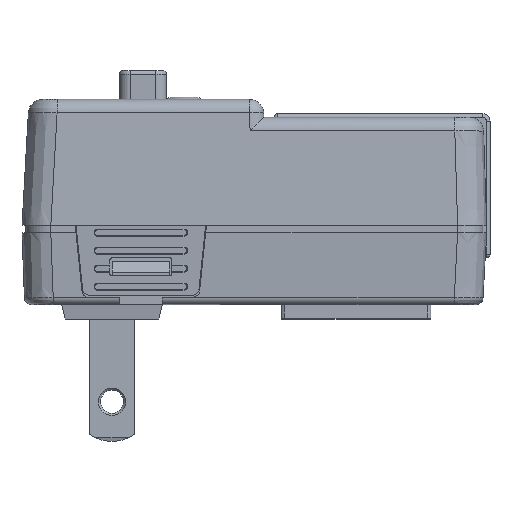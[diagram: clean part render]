
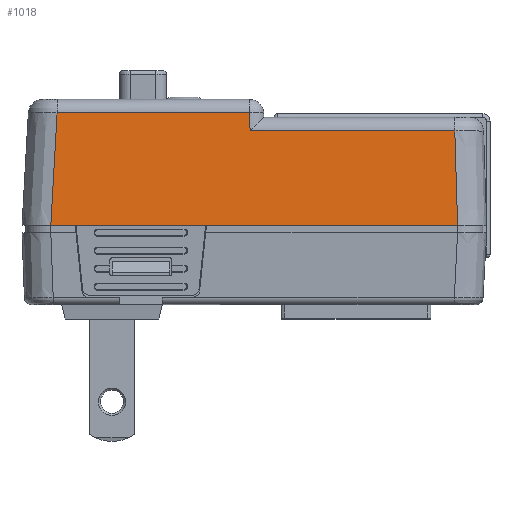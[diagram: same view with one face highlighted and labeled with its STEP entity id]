
A CAD part, left-side view. The second image highlights one B-rep face of the part: STEP entity #1018.
In plain terms, the highlighted planar face has unit normal (-0.998, 0, 0.056).
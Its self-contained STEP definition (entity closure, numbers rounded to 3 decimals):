
#232=B_SPLINE_CURVE_WITH_KNOTS('',3,(#12233,#12234,#12235,#12236),
 .UNSPECIFIED.,.F.,.F.,(4,4),(0.,1.),.UNSPECIFIED.);
#234=B_SPLINE_CURVE_WITH_KNOTS('',3,(#12260,#12261,#12262,#12263),
 .UNSPECIFIED.,.F.,.F.,(4,4),(0.,1.),.UNSPECIFIED.);
#483=FACE_OUTER_BOUND('',#2127,.T.);
#1018=ADVANCED_FACE('',(#483),#1486,.T.);
#1486=PLANE('',#8371);
#2127=EDGE_LOOP('',(#2872,#2873,#2874,#2875,#2876,#2877,#2878,#2879));
#2872=ORIENTED_EDGE('',*,*,#5943,.T.);
#2873=ORIENTED_EDGE('',*,*,#5944,.T.);
#2874=ORIENTED_EDGE('',*,*,#5945,.T.);
#2875=ORIENTED_EDGE('',*,*,#5937,.T.);
#2876=ORIENTED_EDGE('',*,*,#5799,.F.);
#2877=ORIENTED_EDGE('',*,*,#5946,.F.);
#2878=ORIENTED_EDGE('',*,*,#5947,.F.);
#2879=ORIENTED_EDGE('',*,*,#5935,.T.);
#5051=VERTEX_POINT('',#11674);
#5052=VERTEX_POINT('',#11676);
#5165=VERTEX_POINT('',#12232);
#5166=VERTEX_POINT('',#12237);
#5167=VERTEX_POINT('',#12264);
#5171=VERTEX_POINT('',#12349);
#5172=VERTEX_POINT('',#12351);
#5173=VERTEX_POINT('',#12354);
#5799=EDGE_CURVE('',#5051,#5052,#6949,.T.);
#5935=EDGE_CURVE('',#5166,#5165,#232,.T.);
#5937=EDGE_CURVE('',#5167,#5052,#234,.T.);
#5943=EDGE_CURVE('',#5165,#5171,#7036,.T.);
#5944=EDGE_CURVE('',#5171,#5172,#7037,.T.);
#5945=EDGE_CURVE('',#5172,#5167,#7038,.T.);
#5946=EDGE_CURVE('',#5173,#5051,#7039,.T.);
#5947=EDGE_CURVE('',#5166,#5173,#7040,.T.);
#6949=LINE('',#11675,#7645);
#7036=LINE('',#12348,#7732);
#7037=LINE('',#12350,#7733);
#7038=LINE('',#12352,#7734);
#7039=LINE('',#12353,#7735);
#7040=LINE('',#12355,#7736);
#7645=VECTOR('',#9253,1.);
#7732=VECTOR('',#9426,1.);
#7733=VECTOR('',#9427,1.);
#7734=VECTOR('',#9428,1.);
#7735=VECTOR('',#9429,1.);
#7736=VECTOR('',#9430,1.);
#8371=AXIS2_PLACEMENT_3D('',#12356,#9431,#9432);
#9253=DIRECTION('',(0.,1.,0.));
#9426=DIRECTION('',(0.,1.,0.));
#9427=DIRECTION('',(0.056,0.04,0.998));
#9428=DIRECTION('',(0.,1.,0.));
#9429=DIRECTION('',(0.,1.,0.));
#9430=DIRECTION('',(0.,1.,0.));
#9431=DIRECTION('',(-0.998,0.,0.056));
#9432=DIRECTION('',(0.056,0.,0.998));
#11674=CARTESIAN_POINT('',(-20.25,-7.5,13.));
#11675=CARTESIAN_POINT('',(-20.25,0.,13.));
#11676=CARTESIAN_POINT('',(-20.25,-4.,13.));
#12232=CARTESIAN_POINT('',(-19.517,-60.111,26.112));
#12233=CARTESIAN_POINT('',(-20.25,-60.5,13.));
#12234=CARTESIAN_POINT('',(-20.006,-60.37,17.371));
#12235=CARTESIAN_POINT('',(-19.761,-60.241,21.741));
#12236=CARTESIAN_POINT('',(-19.517,-60.111,26.112));
#12237=CARTESIAN_POINT('',(-20.25,-60.5,13.));
#12260=CARTESIAN_POINT('',(-19.377,-4.873,28.612));
#12261=CARTESIAN_POINT('',(-19.668,-4.582,23.408));
#12262=CARTESIAN_POINT('',(-19.959,-4.291,18.204));
#12263=CARTESIAN_POINT('',(-20.25,-4.,13.));
#12264=CARTESIAN_POINT('',(-19.377,-4.873,28.612));
#12348=CARTESIAN_POINT('',(-19.517,-33.6,26.112));
#12349=CARTESIAN_POINT('',(-19.517,-31.679,26.112));
#12350=CARTESIAN_POINT('',(-19.276,-31.506,30.42));
#12351=CARTESIAN_POINT('',(-19.377,-31.578,28.612));
#12352=CARTESIAN_POINT('',(-19.377,-4.978,28.612));
#12353=CARTESIAN_POINT('',(-20.25,0.,13.));
#12354=CARTESIAN_POINT('',(-20.25,-25.5,13.));
#12355=CARTESIAN_POINT('',(-20.25,0.,13.));
#12356=CARTESIAN_POINT('',(-20.25,0.,13.));
